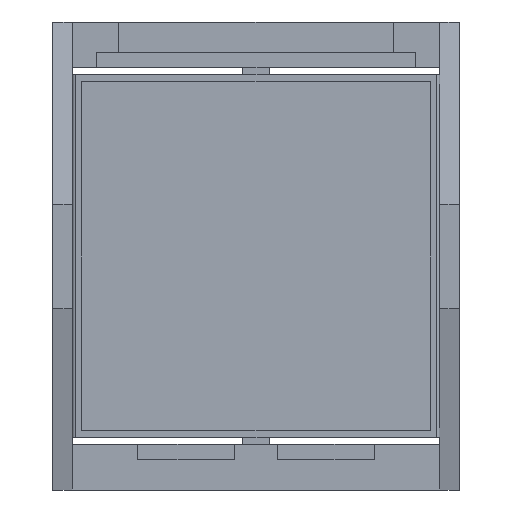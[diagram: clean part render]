
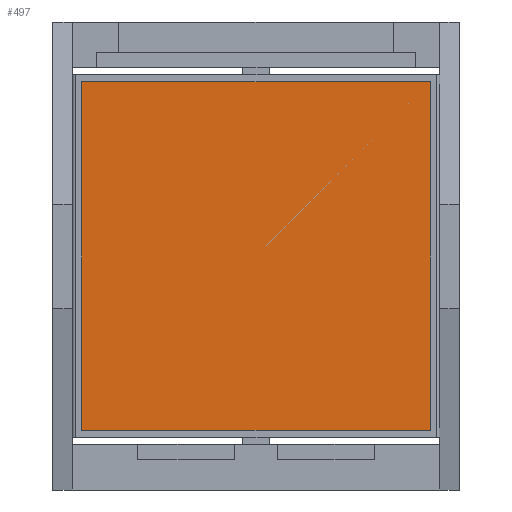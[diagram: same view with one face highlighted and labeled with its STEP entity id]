
A CAD part, front view. The second image highlights one B-rep face of the part: STEP entity #497.
In plain terms, the highlighted planar face has unit normal (0, -1, 0).
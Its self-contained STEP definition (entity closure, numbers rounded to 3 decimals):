
#66 = VERTEX_POINT ( 'NONE', #4767 ) ;
#286 = DIRECTION ( 'NONE',  ( 0., 0., 1. ) ) ;
#468 = ORIENTED_EDGE ( 'NONE', *, *, #3058, .F. ) ;
#497 = ADVANCED_FACE ( 'NONE', ( #760 ), #6795, .F. ) ;
#502 = LINE ( 'NONE', #4203, #7547 ) ;
#760 = FACE_OUTER_BOUND ( 'NONE', #4956, .T. ) ;
#1423 = VECTOR ( 'NONE', #5728, 1000. ) ;
#1528 = VERTEX_POINT ( 'NONE', #5866 ) ;
#1581 = LINE ( 'NONE', #3435, #5600 ) ;
#1786 = EDGE_CURVE ( 'NONE', #1528, #4619, #1581, .T. ) ;
#2059 = CARTESIAN_POINT ( 'NONE',  ( 12.7, -0.127, 12.7 ) ) ;
#2658 = ORIENTED_EDGE ( 'NONE', *, *, #7433, .F. ) ;
#2792 = LINE ( 'NONE', #7678, #4070 ) ;
#2993 = AXIS2_PLACEMENT_3D ( 'NONE', #4527, #5778, #7594 ) ;
#3058 = EDGE_CURVE ( 'NONE', #66, #6082, #502, .T. ) ;
#3076 = ORIENTED_EDGE ( 'NONE', *, *, #4603, .F. ) ;
#3435 = CARTESIAN_POINT ( 'NONE',  ( -12.7, -0.127, 12.7 ) ) ;
#4070 = VECTOR ( 'NONE', #286, 1000. ) ;
#4112 = DIRECTION ( 'NONE',  ( 1., 0., 0. ) ) ;
#4203 = CARTESIAN_POINT ( 'NONE',  ( -12.7, -0.127, -12.7 ) ) ;
#4527 = CARTESIAN_POINT ( 'NONE',  ( -12.7, -0.127, 12.7 ) ) ;
#4588 = ORIENTED_EDGE ( 'NONE', *, *, #1786, .F. ) ;
#4603 = EDGE_CURVE ( 'NONE', #4619, #66, #5843, .T. ) ;
#4619 = VERTEX_POINT ( 'NONE', #2059 ) ;
#4767 = CARTESIAN_POINT ( 'NONE',  ( 12.7, -0.127, -12.7 ) ) ;
#4956 = EDGE_LOOP ( 'NONE', ( #2658, #468, #3076, #4588 ) ) ;
#5600 = VECTOR ( 'NONE', #4112, 1000. ) ;
#5728 = DIRECTION ( 'NONE',  ( 0., 0., -1. ) ) ;
#5778 = DIRECTION ( 'NONE',  ( 0., 1., 0. ) ) ;
#5843 = LINE ( 'NONE', #7541, #1423 ) ;
#5866 = CARTESIAN_POINT ( 'NONE',  ( -12.7, -0.127, 12.7 ) ) ;
#6082 = VERTEX_POINT ( 'NONE', #7022 ) ;
#6795 = PLANE ( 'NONE',  #2993 ) ;
#7022 = CARTESIAN_POINT ( 'NONE',  ( -12.7, -0.127, -12.7 ) ) ;
#7433 = EDGE_CURVE ( 'NONE', #6082, #1528, #2792, .T. ) ;
#7448 = DIRECTION ( 'NONE',  ( -1., 0., 0. ) ) ;
#7541 = CARTESIAN_POINT ( 'NONE',  ( 12.7, -0.127, -12.7 ) ) ;
#7547 = VECTOR ( 'NONE', #7448, 1000. ) ;
#7594 = DIRECTION ( 'NONE',  ( 0., 0., 1. ) ) ;
#7678 = CARTESIAN_POINT ( 'NONE',  ( -12.7, -0.127, -12.7 ) ) ;
